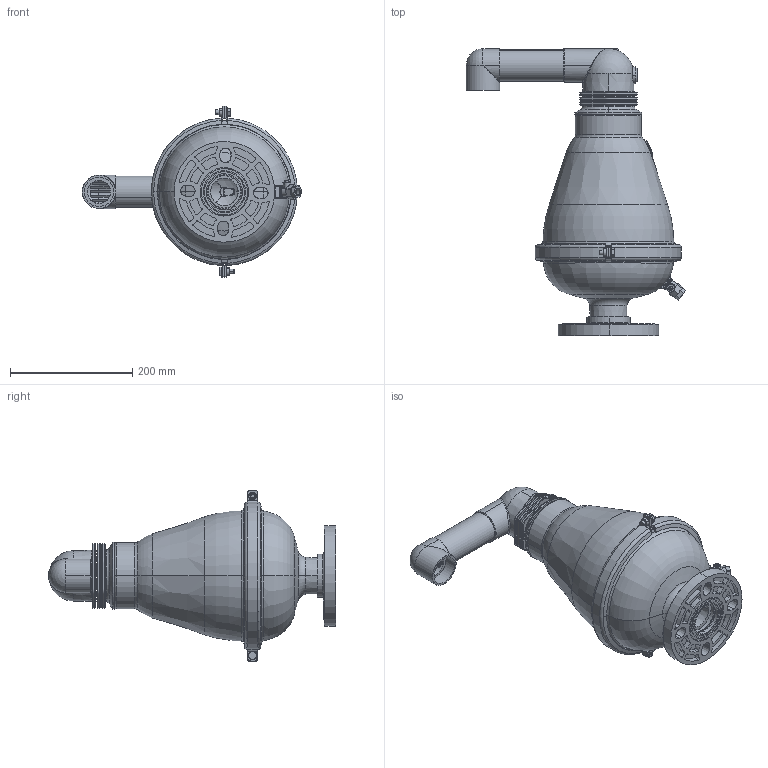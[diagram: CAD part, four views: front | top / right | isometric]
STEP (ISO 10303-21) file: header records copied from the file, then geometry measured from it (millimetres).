
FILE_DESCRIPTION (( 'STEP AP203' ), '1' );
FILE_NAME ('Assy_D-025_2.STEP', '2014-03-19T06:02:16', ( '' ), ( '' ), 'SwSTEP 2.0', 'SolidWorks 2012', '' );
FILE_SCHEMA (( 'CONFIG_CONTROL_DESIGN' ));
Length unit declared in the file: millimetre
Products named in the file (1): Assy_D-025_2
Bounding box: 359.89 x 471.76 x 280.5 mm (x, y, z)
Surface area: 417588.3 mm2 (no closed solid volume)
Topology: 0 solids, 24 shells, 734 faces, 2149 edges, 1436 vertices
Faces by surface type: cylinder 289, plane 211, torus 115, cone 63, bspline 51, sphere 5
Entity records: 28922 total; most frequent: CARTESIAN_POINT 9761, DIRECTION 4080, ORIENTED_EDGE 3772, EDGE_CURVE 2144, AXIS2_PLACEMENT_3D 1615, VERTEX_POINT 1436, CIRCLE 931, VECTOR 850
